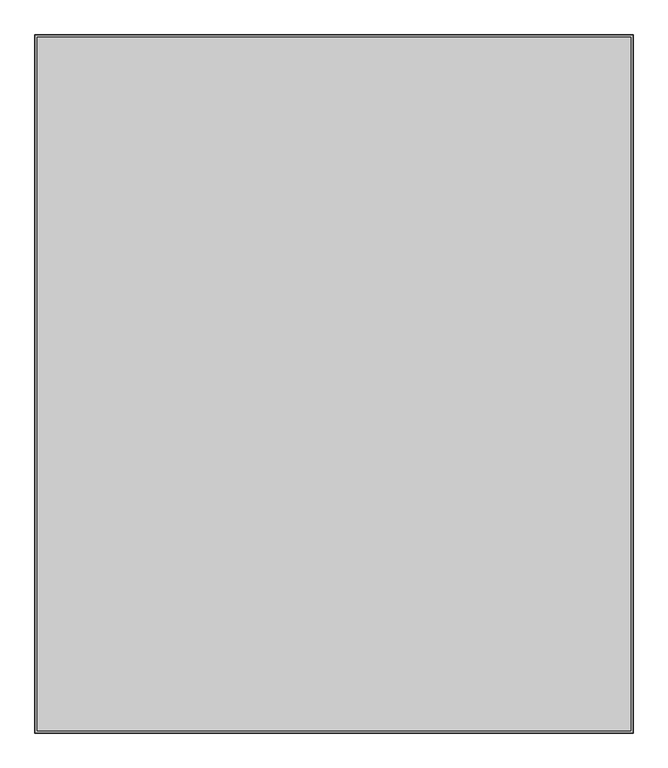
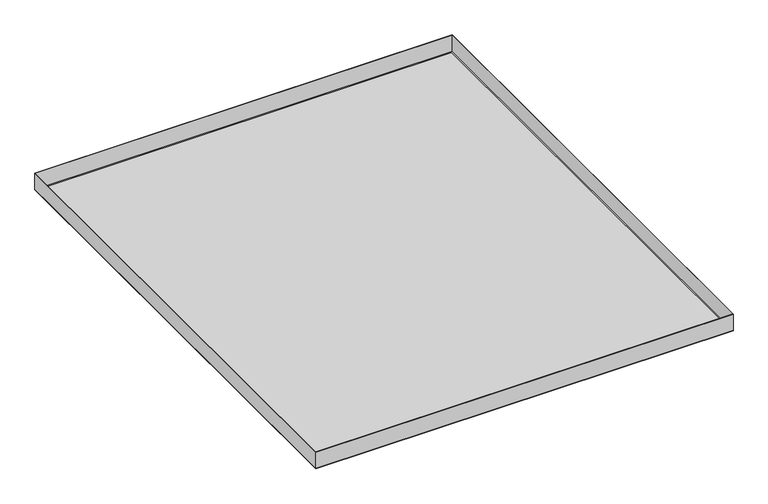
"""IFC4 building model written with IfcOpenShell, lengths in millimetres: proxy geometry, durlum_S7_panel : durlum_S7_panel."""

import ifcopenshell
import ifcopenshell.guid

model = None  # the IFC model being written
_history = None  # IfcOwnerHistory: only IFC2X3 demands one
_inside = {}  # id of a spatial element -> (the spatial element, [elements in it])
_under = {}  # id of a project, library or spatial element -> (it, [spatial elements below it])
_declared = {}  # id of a project -> (the project, [libraries it declares])
_typed = {}  # id of a type object -> (the type object, [elements of that type])
_made_of = {}  # id of a material, layer set ... -> (it, [elements and type objects made of it])


def new_model(schema):
    """Start an empty IFC model of exactly this schema.

    Asked for "IFC4X3", IfcOpenShell would pick the latest addendum, in which some entities
    have other attributes; the version numbers below select the first issue.
    IFC2X3 requires an IfcOwnerHistory on every rooted entity: one is made here for all.
    """
    global model, _history
    if schema == "IFC4X3":
        model = ifcopenshell.file(schema_version=(4, 3, 0, 0))
    else:
        model = ifcopenshell.file(schema=schema)
    _inside.clear()
    _under.clear()
    _declared.clear()
    _typed.clear()
    _made_of.clear()
    _history = None
    if model.schema == "IFC2X3":
        org = make("IfcOrganization", Name="unknown")
        user = make(
            "IfcPersonAndOrganization",
            ThePerson=make("IfcPerson", FamilyName="unknown"),
            TheOrganization=org,
        )
        app = make(
            "IfcApplication",
            ApplicationDeveloper=org,
            Version="unknown",
            ApplicationFullName="unknown",
            ApplicationIdentifier="unknown",
        )
        _history = make(
            "IfcOwnerHistory",
            OwningUser=user,
            OwningApplication=app,
            ChangeAction="ADDED",
            CreationDate=0,
        )
    return model


def make(cls, **values):
    """One entity of the class cls with the attributes given. An attribute that is None is left unset."""
    return model.create_entity(
        cls, **{name: value for name, value in values.items() if value is not None}
    )


def rooted(cls, **values):
    """An entity with a GlobalId (a new one), such as an element, a storey or a relation."""
    return make(cls, GlobalId=ifcopenshell.guid.new(), OwnerHistory=_history, **values)


def si_unit(unit_type, name, prefix=None):
    """IfcSIUnit, for example si_unit("LENGTHUNIT", "METRE", prefix="MILLI")."""
    return make("IfcSIUnit", UnitType=unit_type, Prefix=prefix, Name=name)


def assignment(units):
    """IfcUnitAssignment: the units of a project."""
    return None if units is None else make("IfcUnitAssignment", Units=units)


def point(xyz):
    """IfcCartesianPoint."""
    return None if xyz is None else make("IfcCartesianPoint", Coordinates=xyz)


def direction(xyz):
    """IfcDirection."""
    return None if xyz is None else make("IfcDirection", DirectionRatios=xyz)


def frame(location, z_axis=None, x_axis=None):
    """IfcAxis2Placement3D, a coordinate frame: its origin and axes. An axis left out is left unset."""
    return make(
        "IfcAxis2Placement3D",
        Location=point(location),
        Axis=direction(z_axis),
        RefDirection=direction(x_axis),
    )


def origin():
    """The frame at (0, 0, 0) with its axes left unset."""
    return frame((0.0, 0.0, 0.0))


def origin_with_axes():
    """The frame at (0, 0, 0) with the z axis (0, 0, 1) and the x axis (1, 0, 0) written out."""
    return frame((0.0, 0.0, 0.0), z_axis=(0.0, 0.0, 1.0), x_axis=(1.0, 0.0, 0.0))


def place(relative_to, where):
    """IfcLocalPlacement: puts the frame where relative to a parent placement (None: the world)."""
    return make(
        "IfcLocalPlacement", PlacementRelTo=relative_to, RelativePlacement=where
    )


def context(
    kind, dimensions, precision=None, world=None, true_north=None, identifier=None
):
    """IfcGeometricRepresentationContext, for example the 3D "Model" context."""
    return make(
        "IfcGeometricRepresentationContext",
        ContextIdentifier=identifier,
        ContextType=kind,
        CoordinateSpaceDimension=dimensions,
        Precision=precision,
        WorldCoordinateSystem=world,
        TrueNorth=true_north,
    )


def project(units=None, contexts=None):
    """IfcProject with its units and contexts."""
    return rooted(
        "IfcProject",
        Name="project",
        RepresentationContexts=contexts,
        UnitsInContext=assignment(units),
    )


def spatial(cls, under=None, at=None, **own):
    """A site, building, storey or space (cls), placed at a placement, below another one or the project."""
    s = rooted(cls, ObjectPlacement=at, **own)
    if under is not None:
        _under.setdefault(under.id(), (under, []))[1].append(s)
    return s


def polyline(points):
    """IfcPolyline through the points."""
    return make("IfcPolyline", Points=[point(p) for p in points])


def outline(outer, holes=None, kind="AREA"):
    """IfcArbitraryClosedProfileDef: a profile drawn as a closed curve; with holes, ...WithVoids."""
    if holes is None:
        return make("IfcArbitraryClosedProfileDef", ProfileType=kind, OuterCurve=outer)
    return make(
        "IfcArbitraryProfileDefWithVoids",
        ProfileType=kind,
        OuterCurve=outer,
        InnerCurves=holes,
    )


def extrude(swept, where, along, depth):
    """IfcExtrudedAreaSolid: the profile swept, set in the frame where, extruded along a direction by depth."""
    return make(
        "IfcExtrudedAreaSolid",
        SweptArea=swept,
        Position=where,
        ExtrudedDirection=direction(along),
        Depth=depth,
    )


def shape(context_of_items, identifier, shape_type, items):
    """IfcShapeRepresentation: the items that make up one representation, for example the "Body"."""
    return make(
        "IfcShapeRepresentation",
        ContextOfItems=context_of_items,
        RepresentationIdentifier=identifier,
        RepresentationType=shape_type,
        Items=items,
    )


def source(mapping_origin, context_of_items, identifier, shape_type, items):
    """IfcRepresentationMap: a shape defined once, which mapped items show again and again."""
    return make(
        "IfcRepresentationMap",
        MappingOrigin=mapping_origin,
        MappedRepresentation=shape(context_of_items, identifier, shape_type, items),
    )


def transform(
    local_origin,
    x_axis=None,
    y_axis=None,
    z_axis=None,
    scale=None,
    scale2=None,
    scale3=None,
    uniform=True,
):
    """IfcCartesianTransformationOperator3D, or its non-uniform kind. x_axis, y_axis, z_axis: its Axis1, 2, 3."""
    if uniform:
        return make(
            "IfcCartesianTransformationOperator3D",
            Axis1=direction(x_axis),
            Axis2=direction(y_axis),
            LocalOrigin=point(local_origin),
            Scale=scale,
            Axis3=direction(z_axis),
        )
    return make(
        "IfcCartesianTransformationOperator3DnonUniform",
        Axis1=direction(x_axis),
        Axis2=direction(y_axis),
        LocalOrigin=point(local_origin),
        Scale=scale,
        Axis3=direction(z_axis),
        Scale2=scale2,
        Scale3=scale3,
    )


def mapped(mapping_source, mapping_target):
    """IfcMappedItem: shows the shape of a source again, moved by a transform."""
    return make(
        "IfcMappedItem", MappingSource=mapping_source, MappingTarget=mapping_target
    )


def made_of(thing, what):
    """Note that an element or type object is made of a material, layer set ...; save() writes the relation."""
    if what is not None:
        _made_of.setdefault(what.id(), (what, []))[1].append(thing)
    return thing


def element(
    cls,
    number,
    at=None,
    inside=None,
    cuts=None,
    type_object=None,
    material=None,
    context=None,
    identifier="Body",
    shape_type=None,
    held_by="IfcProductDefinitionShape",
    body=None,
    shapes=None,
    **own,
):
    """One element of the class cls, such as IfcWall. Its Tag is "e" and its number.

    at: its placement. inside: the storey or other place that contains it. cuts: it is an
    opening in that element (IfcRelVoidsElement). A single representation is given by context,
    identifier, shape_type and body (its items); several are given by shapes. held_by: the class
    of the entity that holds the representations. save() writes the other relations.
    """
    e = rooted(cls, Tag="e%d" % number, ObjectPlacement=at, **own)
    if body is not None:
        shapes = [shape(context, identifier, shape_type, body)]
    if shapes is not None:
        e.Representation = make(held_by, Representations=shapes)
    if inside is not None:
        _inside.setdefault(inside.id(), (inside, []))[1].append(e)
    if cuts is not None:
        rooted(
            "IfcRelVoidsElement", RelatingBuildingElement=cuts, RelatedOpeningElement=e
        )
    if type_object is not None:
        _typed.setdefault(type_object.id(), (type_object, []))[1].append(e)
    return made_of(e, material)


def aggregate(whole, parts):
    """IfcRelAggregates: a whole, such as a stair, and the parts it consists of."""
    return rooted("IfcRelAggregates", RelatingObject=whole, RelatedObjects=parts)


def save(model, path):
    """Write the relations noted so far, then the file.

    IfcRelAggregates (storeys below a building ...), IfcRelContainedInSpatialStructure (elements
    in a storey), IfcRelDefinesByType, IfcRelAssociatesMaterial and IfcRelDeclares: one each for
    every whole, place, type object, material and project.
    """
    for whole, parts in _under.values():
        aggregate(whole, parts)
    for where, things in _inside.values():
        rooted(
            "IfcRelContainedInSpatialStructure",
            RelatedElements=things,
            RelatingStructure=where,
        )
    for kind, things in _typed.values():
        rooted("IfcRelDefinesByType", RelatedObjects=things, RelatingType=kind)
    for what, things in _made_of.values():
        rooted("IfcRelAssociatesMaterial", RelatedObjects=things, RelatingMaterial=what)
    for by, libraries in _declared.values():
        rooted("IfcRelDeclares", RelatingContext=by, RelatedDefinitions=libraries)
    model.write(path)


def generic_models_57b20986(model_context):
    return source(origin(), model_context, "Body", "SweptSolid", [
        extrude(outline(polyline([(478.0, 557.5), (478.0, -557.5), (-478.0, -557.5), (-478.0, 557.5), (478.0, 557.5)]), holes=[polyline([(477.4, 556.9), (-477.4, 556.9), (-477.4, -556.9), (477.4, -556.9), (477.4, 556.9)])]), frame((0.0, 0.0, 0.6), z_axis=(0.0, 0.0, 1.0), x_axis=(1.0, 0.0, 0.0)), (0.0, 0.0, 1.0), 39.4),
        extrude(outline(polyline([(474.0, 553.5), (474.0, -553.5), (-474.0, -553.5), (-474.0, 553.5), (474.0, 553.5)])), frame((0.0, 0.0, 0.6), z_axis=(0.0, 0.0, 1.0), x_axis=(1.0, 0.0, 0.0)), (0.0, 0.0, 1.0), 0.6),
        extrude(outline(polyline([(478.0, 557.5), (478.0, -557.5), (-478.0, -557.5), (-478.0, 557.5), (478.0, 557.5)]), holes=[polyline([(474.0, 553.5), (-474.0, 553.5), (-474.0, -553.5), (474.0, -553.5), (474.0, 553.5)])]), origin_with_axes(), (0.0, 0.0, 1.0), 0.6),
        extrude(outline(polyline([(474.0, 553.5), (474.0, -553.5), (-474.0, -553.5), (-474.0, 553.5), (474.0, 553.5)])), origin_with_axes(), (0.0, 0.0, 1.0), 0.6),
    ])


if __name__ == "__main__":
    model = new_model("IFC4")
    model_context = context("Model", 3, world=origin())
    ifc_project = project(units=[si_unit("LENGTHUNIT", "METRE", prefix="MILLI")], contexts=[model_context])
    site = spatial("IfcSite", under=ifc_project)
    building = spatial("IfcBuilding", under=site)
    placement = place(None, origin())
    generic_models_shape = generic_models_57b20986(model_context)
    element("IfcBuildingElementProxy", 1, Name="durlum_S7_panel : durlum_S7_panel", ObjectType="durlum_S7_panel : durlum_S7_panel", at=placement, inside=building, context=model_context, shape_type="MappedRepresentation", body=[
        mapped(generic_models_shape, transform((0.0, 0.0, 0.0), x_axis=(1.0, 0.0, 0.0), y_axis=(0.0, 1.0, 0.0), z_axis=(0.0, 0.0, 1.0))),
    ])
    save(model, "model.ifc")
